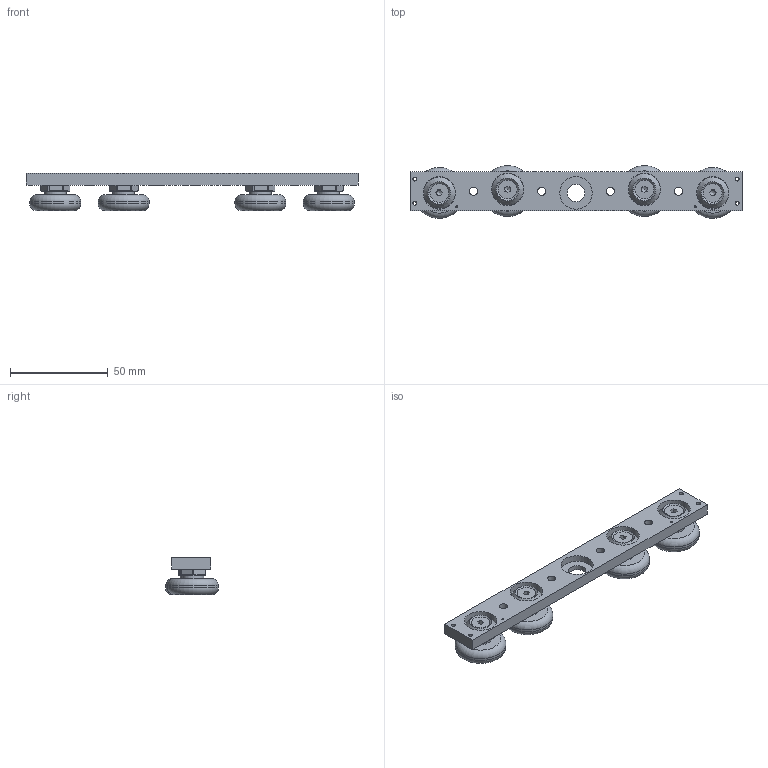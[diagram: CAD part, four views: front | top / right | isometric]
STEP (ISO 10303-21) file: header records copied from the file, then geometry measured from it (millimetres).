
FILE_DESCRIPTION (( 'STEP AP214' ), '1' );
FILE_NAME ('E33-4.STEP', '2022-02-01T10:12:30', ( '' ), ( '' ), 'SwSTEP 2.0', 'SolidWorks 2019', '' );
FILE_SCHEMA (( 'AUTOMOTIVE_DESIGN' ));
Length unit declared in the file: millimetre
Products named in the file (6): 32425; 11686_01; 32426; DIN 7991 - M5 x 12 (schwarz01)_DIN 7991 - M5 x 12 --- 12C_phosphatiert; E33-4; 11682_01
Assembly tree (13 placements, depth 2):
  E33-4
    11682_01
    32425  x2
    32426  x2
    11686_01  x4
    DIN 7991 - M5 x 12 (schwarz01)_DIN 7991 - M5 x 12 --- 12C_phosphatiert  x4
Bounding box: 170 x 27 x 19 mm (x, y, z)
Volume: 35534.6 mm3; surface area: 21206 mm2
Topology: 13 solids, 13 shells, 329 faces, 648 edges, 362 vertices
Faces by surface type: plane 239, cylinder 48, cone 30, torus 12
Full cylindrical faces by diameter (mm): 1 x2, 2 x4, 4.2 x8, 5 x4, 9 x9, 9.64 x4, 11 x4, 16 x4, 16.6 x5, 26 x4
Entity records: 4105 total; most frequent: DIRECTION 682, CARTESIAN_POINT 602, ORIENTED_EDGE 518, EDGE_CURVE 259, AXIS2_PLACEMENT_3D 251, EDGE_LOOP 242, FACE_OUTER_BOUND 192, VECTOR 180
